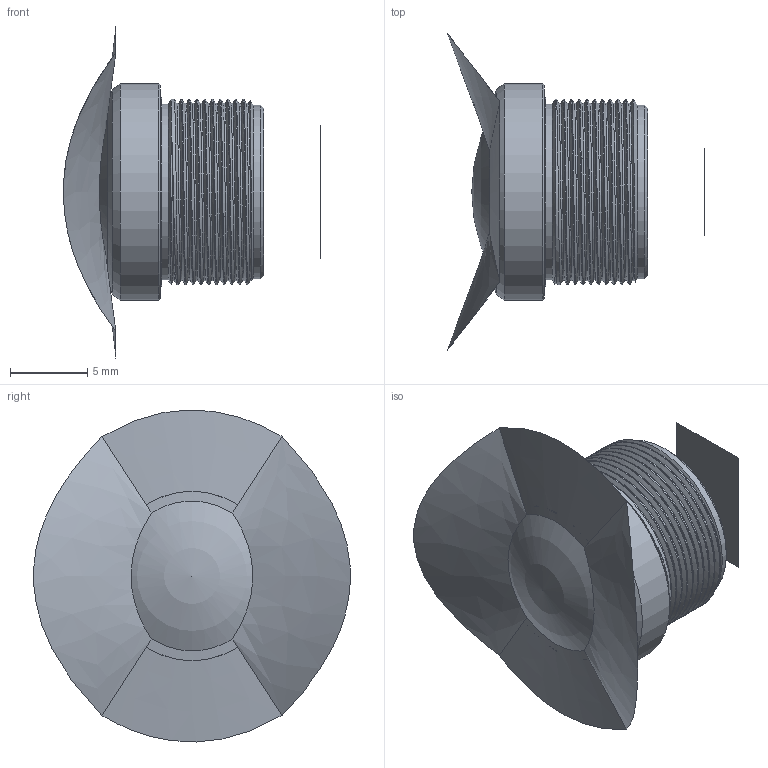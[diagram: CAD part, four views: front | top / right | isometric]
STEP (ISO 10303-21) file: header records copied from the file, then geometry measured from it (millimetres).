
FILE_DESCRIPTION(/* description */ (''),/* implementation_level */ '2;1');
FILE_NAME(/* name */ 'CIL292-F2.1-M12A650.stp',/* time_stamp */ '2025-08-01T10:39:52-07:00',/* author */ ('MaxHenkart'),/* organization */ (''),/* preprocessor_version */ 'ST-DEVELOPER v20',/* originating_system */ 'Autodesk Inventor 2025',/* authorisation */ '');
FILE_SCHEMA (('AUTOMOTIVE_DESIGN { 1 0 10303 214 3 1 1 }'));
Length unit declared in the file: millimetre
Products named in the file (1): 292
Bounding box: 16.6 x 20.44 x 21.44 mm (x, y, z)
Volume: 1256.5 mm3; surface area: 1163.7 mm2
Topology: 1 solids, 6 shells, 52 faces, 135 edges, 93 vertices
Faces by surface type: bspline 18, cylinder 16, cone 10, plane 6, torus 1, sphere 1
Full cylindrical faces by diameter (mm): 10.6 x1, 11.2 x1, 11.35 x1, 12 x9, 12.15 x1, 14 x1
Entity records: 9535 total; most frequent: CARTESIAN_POINT 8351, ORIENTED_EDGE 248, DIRECTION 178, EDGE_CURVE 134, VERTEX_POINT 93, AXIS2_PLACEMENT_3D 64, EDGE_LOOP 56, B_SPLINE_CURVE_WITH_KNOTS 55
